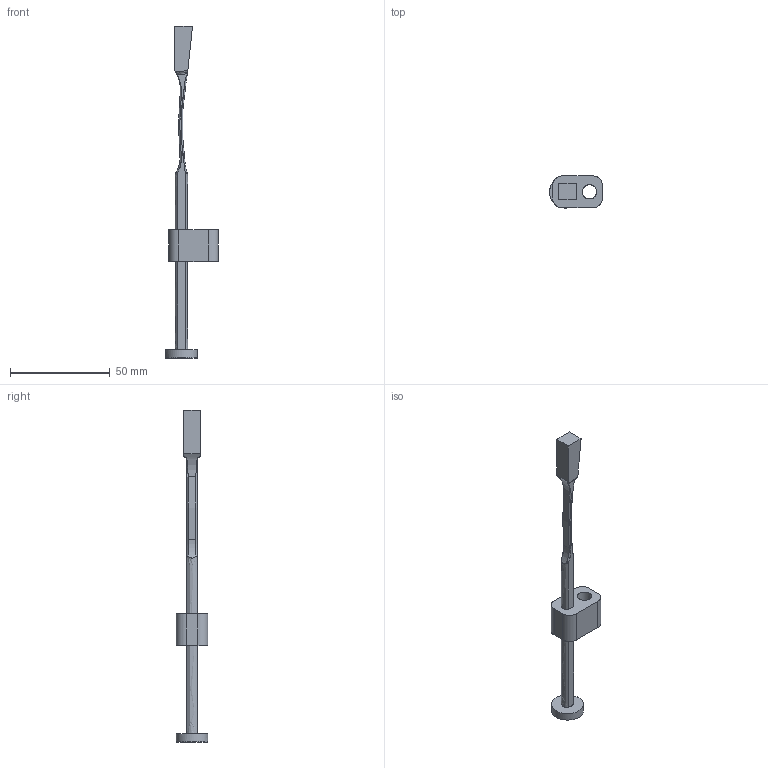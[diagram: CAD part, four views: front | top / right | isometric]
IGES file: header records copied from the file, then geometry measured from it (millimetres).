
Start section: VISI Layer Mapping Iges    VISI  0      LAYER0  1      WARNINGS
Global section: file name: G:\Produktkommunikation\Support\CD-Online-Katalog\3D Daten Produkte\E3200\E3200_8_9,0_162.igs; native system: VISI 20.0; preprocessor: 2.0; author: NUS; organization: Unknown; date: 20130529.090039; units: millimetre
Bounding box: 26.5 x 16 x 166 mm (x, y, z)
Surface area: 6909.7 mm2 (no closed solid volume)
Topology: 0 solids, 0 shells, 74 faces, 639 edges, 619 vertices
Faces by surface type: bspline 74
